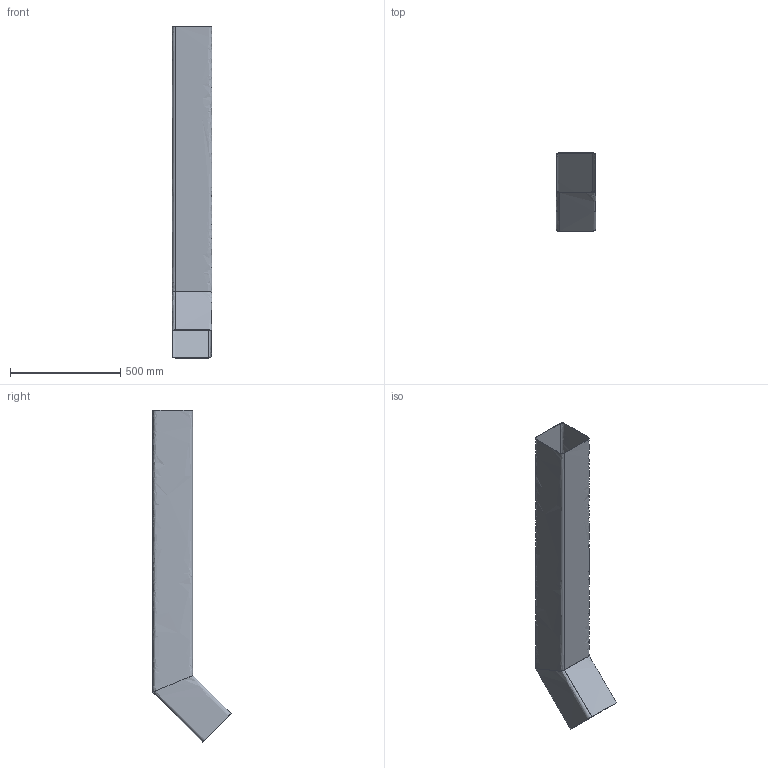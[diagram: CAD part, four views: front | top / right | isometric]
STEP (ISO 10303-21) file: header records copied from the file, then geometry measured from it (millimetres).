
FILE_DESCRIPTION(/* description */ (''),/* implementation_level */ '2;1');
FILE_NAME(/* name */ 'Труба 4',/* time_stamp */ '2025-12-09T13:27:45+03:00',/* author */ (''),/* organization */ (''),/* preprocessor_version */ 'ST-DEVELOPER v16.5',/* originating_system */ 'Rhino 7.13',/* authorisation */ '');
FILE_SCHEMA (('CONFIG_CONTROL_DESIGN','CONFIG_CONTROL_DESIGN'));
Length unit declared in the file: millimetre
Products named in the file (1): Document
Bounding box: 180 x 353.64 x 1503.64 mm (x, y, z)
Surface area: 2110255.7 mm2 (no closed solid volume)
Topology: 0 solids, 1 shells, 12 faces, 37 edges, 23 vertices
Faces by surface type: bspline 12
Entity records: 1365 total; most frequent: CARTESIAN_POINT 1093, ORIENTED_EDGE 66, EDGE_CURVE 37, VERTEX_POINT 23, B_SPLINE_CURVE_WITH_KNOTS 18, ADVANCED_FACE 12, FACE_OUTER_BOUND 12, EDGE_LOOP 12
